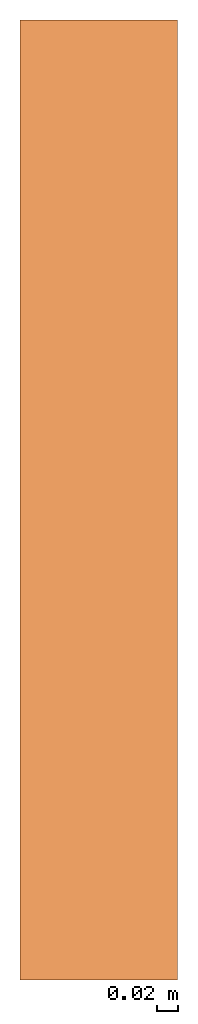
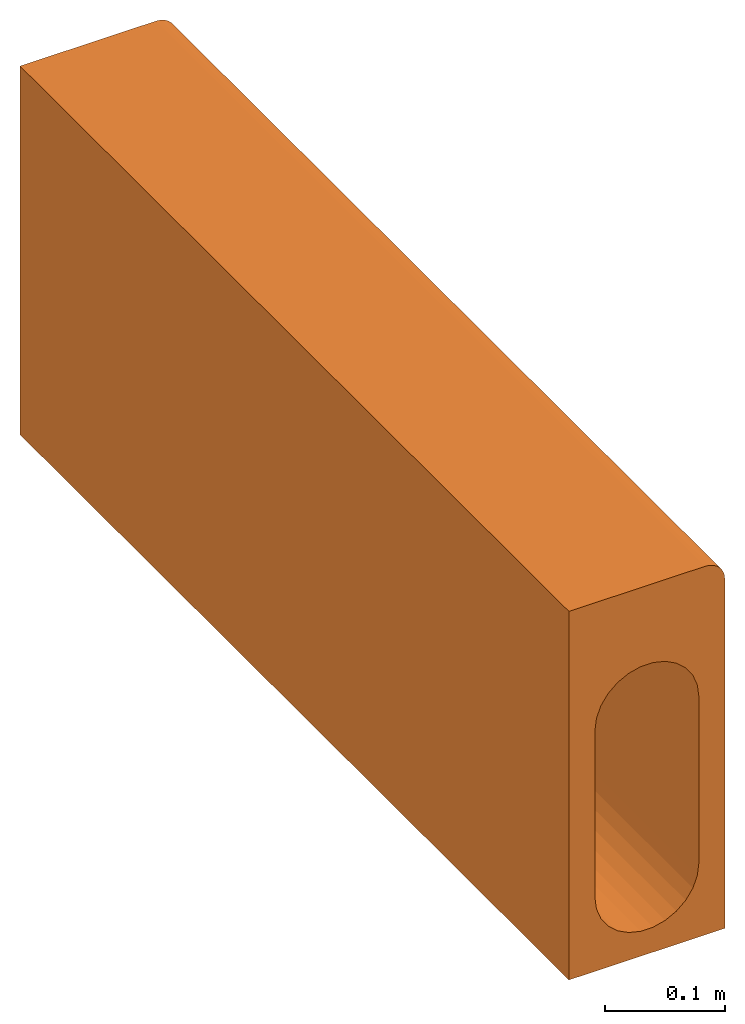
# One storey: 1 proxy.
"""IFC2X3 building model written with IfcOpenShell, lengths in millimetres."""

import ifcopenshell
import ifcopenshell.guid

model = None  # the IFC model being written
_history = None  # IfcOwnerHistory: only IFC2X3 demands one
_inside = {}  # id of a spatial element -> (the spatial element, [elements in it])
_under = {}  # id of a project, library or spatial element -> (it, [spatial elements below it])
_declared = {}  # id of a project -> (the project, [libraries it declares])
_typed = {}  # id of a type object -> (the type object, [elements of that type])
_made_of = {}  # id of a material, layer set ... -> (it, [elements and type objects made of it])


def new_model(schema):
    """Start an empty IFC model of exactly this schema.

    Asked for "IFC4X3", IfcOpenShell would pick the latest addendum, in which some entities
    have other attributes; the version numbers below select the first issue.
    IFC2X3 requires an IfcOwnerHistory on every rooted entity: one is made here for all.
    """
    global model, _history
    if schema == "IFC4X3":
        model = ifcopenshell.file(schema_version=(4, 3, 0, 0))
    else:
        model = ifcopenshell.file(schema=schema)
    _inside.clear()
    _under.clear()
    _declared.clear()
    _typed.clear()
    _made_of.clear()
    _history = None
    if model.schema == "IFC2X3":
        org = make("IfcOrganization", Name="unknown")
        user = make(
            "IfcPersonAndOrganization",
            ThePerson=make("IfcPerson", FamilyName="unknown"),
            TheOrganization=org,
        )
        app = make(
            "IfcApplication",
            ApplicationDeveloper=org,
            Version="unknown",
            ApplicationFullName="unknown",
            ApplicationIdentifier="unknown",
        )
        _history = make(
            "IfcOwnerHistory",
            OwningUser=user,
            OwningApplication=app,
            ChangeAction="ADDED",
            CreationDate=0,
        )
    return model


def make(cls, **values):
    """One entity of the class cls with the attributes given. An attribute that is None is left unset."""
    return model.create_entity(
        cls, **{name: value for name, value in values.items() if value is not None}
    )


def entity(cls, *values):
    """Any entity or typed value of the class cls, its attributes in the order of the schema. None: left unset."""
    e = model.create_entity(cls)
    for i, value in enumerate(values):
        if value is not None:
            e[i] = value
    return e


def rooted(cls, **values):
    """An entity with a GlobalId (a new one), such as an element, a storey or a relation."""
    return make(cls, GlobalId=ifcopenshell.guid.new(), OwnerHistory=_history, **values)


def si_unit(unit_type, name, prefix=None):
    """IfcSIUnit, for example si_unit("LENGTHUNIT", "METRE", prefix="MILLI")."""
    return make("IfcSIUnit", UnitType=unit_type, Prefix=prefix, Name=name)


def converted_unit(unit_type, name, factor, base, dimensions=None, offset=None):
    """IfcConversionBasedUnit, such as the inch: factor (a typed value) times the base unit."""
    return make(
        "IfcConversionBasedUnit"
        if offset is None
        else "IfcConversionBasedUnitWithOffset",
        ConversionOffset=offset,
        Dimensions=None
        if dimensions is None
        else entity("IfcDimensionalExponents", *dimensions),
        UnitType=unit_type,
        Name=name,
        ConversionFactor=make(
            "IfcMeasureWithUnit", ValueComponent=factor, UnitComponent=base
        ),
    )


def assignment(units):
    """IfcUnitAssignment: the units of a project."""
    return None if units is None else make("IfcUnitAssignment", Units=units)


def point(xyz):
    """IfcCartesianPoint."""
    return None if xyz is None else make("IfcCartesianPoint", Coordinates=xyz)


def direction(xyz):
    """IfcDirection."""
    return None if xyz is None else make("IfcDirection", DirectionRatios=xyz)


def frame(location, z_axis=None, x_axis=None):
    """IfcAxis2Placement3D, a coordinate frame: its origin and axes. An axis left out is left unset."""
    return make(
        "IfcAxis2Placement3D",
        Location=point(location),
        Axis=direction(z_axis),
        RefDirection=direction(x_axis),
    )


def frame_2d(location, x_axis=None):
    """IfcAxis2Placement2D, a coordinate frame in the plane: its origin and x axis."""
    return make(
        "IfcAxis2Placement2D", Location=point(location), RefDirection=direction(x_axis)
    )


def origin():
    """The frame at (0, 0, 0) with its axes left unset."""
    return frame((0.0, 0.0, 0.0))


def place(relative_to, where):
    """IfcLocalPlacement: puts the frame where relative to a parent placement (None: the world)."""
    return make(
        "IfcLocalPlacement", PlacementRelTo=relative_to, RelativePlacement=where
    )


def context(
    kind, dimensions, precision=None, world=None, true_north=None, identifier=None
):
    """IfcGeometricRepresentationContext, for example the 3D "Model" context."""
    return make(
        "IfcGeometricRepresentationContext",
        ContextIdentifier=identifier,
        ContextType=kind,
        CoordinateSpaceDimension=dimensions,
        Precision=precision,
        WorldCoordinateSystem=world,
        TrueNorth=true_north,
    )


def subcontext(parent, identifier, kind, view, scale=None):
    """IfcGeometricRepresentationSubContext, for example "Body" below "Model"."""
    return make(
        "IfcGeometricRepresentationSubContext",
        ContextIdentifier=identifier,
        ContextType=kind,
        ParentContext=parent,
        TargetScale=scale,
        TargetView=view,
    )


def project(units=None, contexts=None):
    """IfcProject with its units and contexts."""
    return rooted(
        "IfcProject",
        Name="project",
        RepresentationContexts=contexts,
        UnitsInContext=assignment(units),
    )


def spatial(cls, under=None, at=None, **own):
    """A site, building, storey or space (cls), placed at a placement, below another one or the project."""
    s = rooted(cls, ObjectPlacement=at, **own)
    if under is not None:
        _under.setdefault(under.id(), (under, []))[1].append(s)
    return s


def polyline(points):
    """IfcPolyline through the points."""
    return make("IfcPolyline", Points=[point(p) for p in points])


def circle_curve(where, radius):
    """IfcCircle in the frame where."""
    return make("IfcCircle", Position=where, Radius=radius)


def parameter(value):
    """IfcParameterValue: where a trimmed curve begins or ends, as a parameter of its basis curve."""
    return model.create_entity("IfcParameterValue", value)


def trimmed(basis, trim1, trim2, sense, master):
    """IfcTrimmedCurve: the piece of a basis curve between two trims."""
    return make(
        "IfcTrimmedCurve",
        BasisCurve=basis,
        Trim1=trim1,
        Trim2=trim2,
        SenseAgreement=sense,
        MasterRepresentation=master,
    )


def segment(curve, same_sense, transition):
    """IfcCompositeCurveSegment."""
    return make(
        "IfcCompositeCurveSegment",
        Transition=transition,
        SameSense=same_sense,
        ParentCurve=curve,
    )


def composite_curve(segments, self_intersect=None):
    """IfcCompositeCurve: segments joined end to end."""
    return make("IfcCompositeCurve", Segments=segments, SelfIntersect=self_intersect)


def outline(outer, holes=None, kind="AREA"):
    """IfcArbitraryClosedProfileDef: a profile drawn as a closed curve; with holes, ...WithVoids."""
    if holes is None:
        return make("IfcArbitraryClosedProfileDef", ProfileType=kind, OuterCurve=outer)
    return make(
        "IfcArbitraryProfileDefWithVoids",
        ProfileType=kind,
        OuterCurve=outer,
        InnerCurves=holes,
    )


def extrude(swept, where, along, depth):
    """IfcExtrudedAreaSolid: the profile swept, set in the frame where, extruded along a direction by depth."""
    return make(
        "IfcExtrudedAreaSolid",
        SweptArea=swept,
        Position=where,
        ExtrudedDirection=direction(along),
        Depth=depth,
    )


def shape(context_of_items, identifier, shape_type, items):
    """IfcShapeRepresentation: the items that make up one representation, for example the "Body"."""
    return make(
        "IfcShapeRepresentation",
        ContextOfItems=context_of_items,
        RepresentationIdentifier=identifier,
        RepresentationType=shape_type,
        Items=items,
    )


def source(mapping_origin, context_of_items, identifier, shape_type, items):
    """IfcRepresentationMap: a shape defined once, which mapped items show again and again."""
    return make(
        "IfcRepresentationMap",
        MappingOrigin=mapping_origin,
        MappedRepresentation=shape(context_of_items, identifier, shape_type, items),
    )


def transform(
    local_origin,
    x_axis=None,
    y_axis=None,
    z_axis=None,
    scale=None,
    scale2=None,
    scale3=None,
    uniform=True,
):
    """IfcCartesianTransformationOperator3D, or its non-uniform kind. x_axis, y_axis, z_axis: its Axis1, 2, 3."""
    if uniform:
        return make(
            "IfcCartesianTransformationOperator3D",
            Axis1=direction(x_axis),
            Axis2=direction(y_axis),
            LocalOrigin=point(local_origin),
            Scale=scale,
            Axis3=direction(z_axis),
        )
    return make(
        "IfcCartesianTransformationOperator3DnonUniform",
        Axis1=direction(x_axis),
        Axis2=direction(y_axis),
        LocalOrigin=point(local_origin),
        Scale=scale,
        Axis3=direction(z_axis),
        Scale2=scale2,
        Scale3=scale3,
    )


def mapped(mapping_source, mapping_target):
    """IfcMappedItem: shows the shape of a source again, moved by a transform."""
    return make(
        "IfcMappedItem", MappingSource=mapping_source, MappingTarget=mapping_target
    )


def material(Name=None, Category=None):
    """IfcMaterial."""
    return make("IfcMaterial", Name=Name, Category=Category)


def made_of(thing, what):
    """Note that an element or type object is made of a material, layer set ...; save() writes the relation."""
    if what is not None:
        _made_of.setdefault(what.id(), (what, []))[1].append(thing)
    return thing


def element(
    cls,
    number,
    at=None,
    inside=None,
    cuts=None,
    type_object=None,
    material=None,
    context=None,
    identifier="Body",
    shape_type=None,
    held_by="IfcProductDefinitionShape",
    body=None,
    shapes=None,
    **own,
):
    """One element of the class cls, such as IfcWall. Its Tag is "e" and its number.

    at: its placement. inside: the storey or other place that contains it. cuts: it is an
    opening in that element (IfcRelVoidsElement). A single representation is given by context,
    identifier, shape_type and body (its items); several are given by shapes. held_by: the class
    of the entity that holds the representations. save() writes the other relations.
    """
    e = rooted(cls, Tag="e%d" % number, ObjectPlacement=at, **own)
    if body is not None:
        shapes = [shape(context, identifier, shape_type, body)]
    if shapes is not None:
        e.Representation = make(held_by, Representations=shapes)
    if inside is not None:
        _inside.setdefault(inside.id(), (inside, []))[1].append(e)
    if cuts is not None:
        rooted(
            "IfcRelVoidsElement", RelatingBuildingElement=cuts, RelatedOpeningElement=e
        )
    if type_object is not None:
        _typed.setdefault(type_object.id(), (type_object, []))[1].append(e)
    return made_of(e, material)


def aggregate(whole, parts):
    """IfcRelAggregates: a whole, such as a stair, and the parts it consists of."""
    return rooted("IfcRelAggregates", RelatingObject=whole, RelatedObjects=parts)


def save(model, path):
    """Write the relations noted so far, then the file.

    IfcRelAggregates (storeys below a building ...), IfcRelContainedInSpatialStructure (elements
    in a storey), IfcRelDefinesByType, IfcRelAssociatesMaterial and IfcRelDeclares: one each for
    every whole, place, type object, material and project.
    """
    for whole, parts in _under.values():
        aggregate(whole, parts)
    for where, things in _inside.values():
        rooted(
            "IfcRelContainedInSpatialStructure",
            RelatedElements=things,
            RelatingStructure=where,
        )
    for kind, things in _typed.values():
        rooted("IfcRelDefinesByType", RelatedObjects=things, RelatingType=kind)
    for what, things in _made_of.values():
        rooted("IfcRelAssociatesMaterial", RelatedObjects=things, RelatingMaterial=what)
    for by, libraries in _declared.values():
        rooted("IfcRelDeclares", RelatingContext=by, RelatedDefinitions=libraries)
    model.write(path)


model = new_model("IFC2X3")

# Units and contexts
model_context = context("Model", 3, precision=1e-06, world=origin(), true_north=direction((2.0, 6.12303176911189e-17, 1.0)))
context_of_model = context(None, 3, precision=1e-06, world=origin(), true_north=direction((2.0, 6.12303176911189e-17, 1.0)))
body_context = subcontext(model_context, "Body", "Model", "MODEL_VIEW")
ifc_project = project(units=[si_unit("LENGTHUNIT", "METRE", prefix="MILLI"), si_unit("AREAUNIT", "SQUARE_METRE", prefix="MILLI"), si_unit("VOLUMEUNIT", "CUBIC_METRE", prefix="MILLI"), converted_unit("PLANEANGLEUNIT", "DEGREE", entity("IfcRatioMeasure", 0.0174532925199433), si_unit("PLANEANGLEUNIT", "RADIAN"), dimensions=[0, 0, 0, 0, 0, 0, 0]), si_unit("TIMEUNIT", "SECOND")], contexts=[model_context, context_of_model])

# Site, building, storey
site_placement = place(None, origin())
site = spatial("IfcSite", under=ifc_project, at=site_placement, Name="Default", CompositionType="ELEMENT")
building_placement = place(site_placement, origin())
building = spatial("IfcBuilding", under=site, at=building_placement, CompositionType="ELEMENT")
storey_placement = place(building_placement, frame((0.0, 0.0, -300.0)))
storey = spatial("IfcBuildingStorey", under=building, at=storey_placement, Name="T.O. Fnd. Wall", CompositionType="ELEMENT", Elevation=-300.0)

# Proxy
ifc_material = material(Name="ACO Polymer Concrete.")
shared_shape = source(origin(), body_context, "Body", "SweptSolid", [
    extrude(outline(composite_curve([segment(polyline([(-86.1999999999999, -153.799999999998), (44.8, -153.799999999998)]), True, "CONTINUOUS"), segment(trimmed(circle_curve(frame_2d((44.7999999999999, -134.799999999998), x_axis=(1.0, 0.0)), 19.0), [parameter(270.0)], [parameter(3.56222124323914e-13)], True, "PARAMETER"), True, "CONTINUOUS"), segment(polyline([(63.7999999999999, -134.799999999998), (63.7999999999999, 221.199999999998)]), True, "CONTINUOUS"), segment(polyline([(63.7999999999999, 221.199999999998), (-86.1999999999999, 221.199999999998)]), True, "CONTINUOUS"), segment(polyline([(-86.1999999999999, 221.199999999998), (-86.1999999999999, -153.799999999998)]), True, "CONTINUOUS")], self_intersect=False), holes=[composite_curve([segment(trimmed(circle_curve(frame_2d((-11.1999999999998, -23.800000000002), x_axis=(1.0, 0.0)), 50.0), [parameter(180.0)], [parameter(0.0)], True, "PARAMETER"), False, "CONTINUOUS"), segment(polyline([(-61.1999999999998, -23.8000000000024), (-61.1999999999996, 146.200000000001)]), True, "CONTINUOUS"), segment(trimmed(circle_curve(frame_2d((-11.1999999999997, 146.200000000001), x_axis=(1.0, 0.0)), 50.0), [parameter(0.0)], [parameter(180.0)], True, "PARAMETER"), False, "CONTINUOUS"), segment(polyline([(38.8000000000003, 146.200000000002), (38.8000000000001, -23.800000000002)]), True, "CONTINUOUS")], self_intersect=False)]), frame((11.1999999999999, 0.0, -133.800000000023), z_axis=(0.0, 1.0, 0.0), x_axis=(1.0, 0.0, 0.0)), (0.0, 0.0, 1.0), 915.0),
])
proxy_placement = place(storey_placement, frame((-5682.99544306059, -10247.1166238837, 300.0)))
element("IfcBuildingElementProxy", 1, at=proxy_placement, inside=storey, material=ifc_material, Name="Civil-Drainage-Channel-ACO-KerbDrain-HB480(amar):4933 - Centre Stone - 915mm LG:4933 - Centre Stone - 915mm LG", ObjectType="4933 - Centre Stone - 915mm LG", CompositionType="ELEMENT", context=body_context, shape_type="MappedRepresentation", body=[
    mapped(shared_shape, transform((0.0, 0.0, 0.0), scale=1.0)),
])

save(model, "model.ifc")
